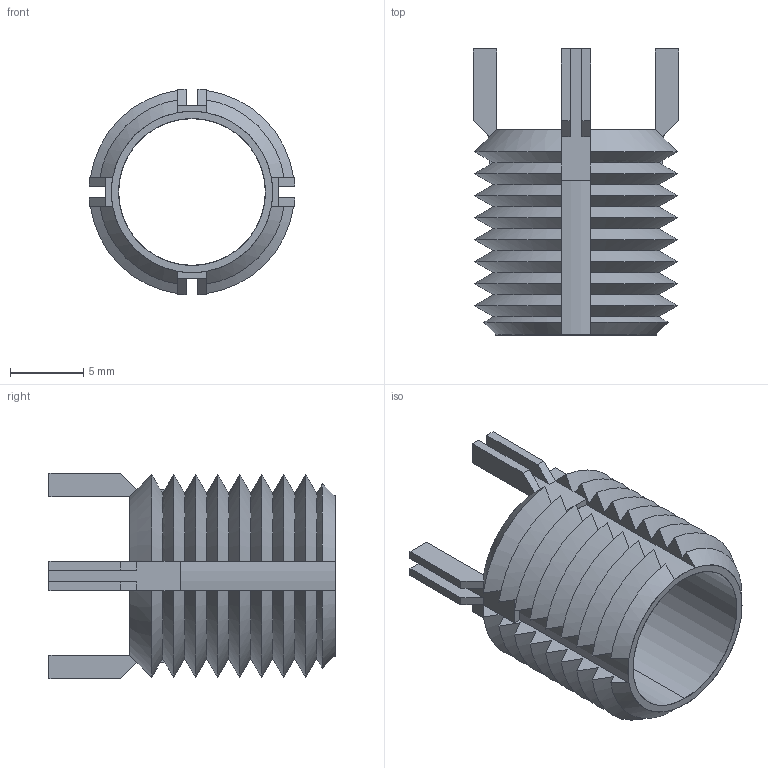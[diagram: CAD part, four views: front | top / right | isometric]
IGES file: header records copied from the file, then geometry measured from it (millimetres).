
Start section: SolidWorks IGES file using analytic representation for surfaces
Global section: file name: C:\Users\IanO\Desktop\22004_v2\TR1520_v2_20230331_IGES\TR1520.65955.igs; native system: SolidWorks 2019; preprocessor: SolidWorks 2019; author: IanO; date: 230331.094840; units: millimetre
Bounding box: 14.02 x 19.5 x 14.02 mm (x, y, z)
Surface area: 1728 mm2 (no closed solid volume)
Topology: 0 solids, 0 shells, 152 faces, 944 edges, 944 vertices
Faces by surface type: revolution 78, bspline 74
